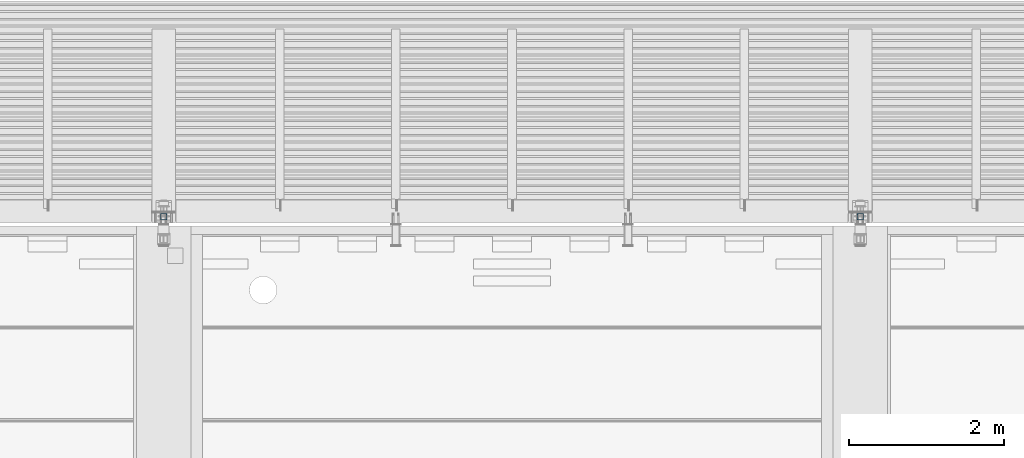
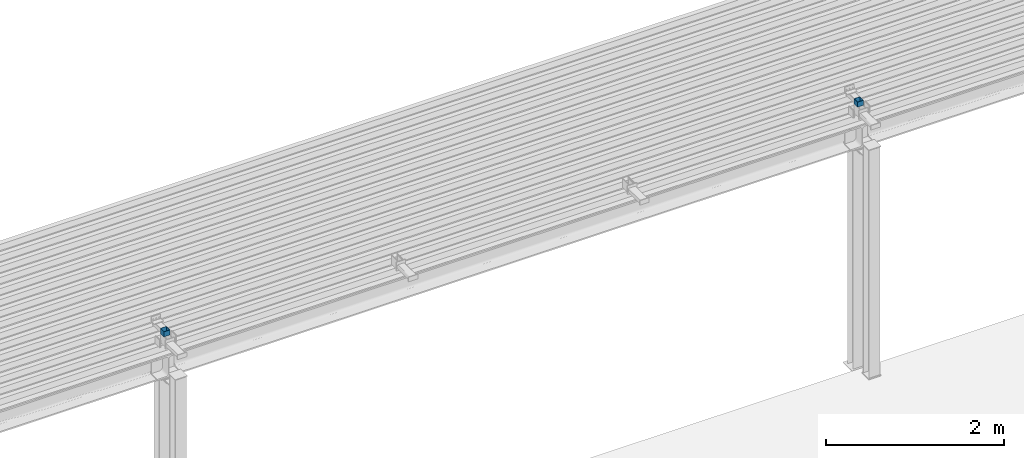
# One storey, part 4 of 34: 2 columns.
"""IFC2X3 building model written with IfcOpenShell, lengths in millimetres."""

from ifc_helpers import new_model, entity, si_unit, converted_unit, derived_unit, direction, frame, origin_with_axes, origin_2d_with_axis, place, context, subcontext, project, spatial, hollow_rectangle, extrude, material, type_object, element, save


model = new_model("IFC2X3")

# Units and contexts
model_context = context("Model", 3, precision=0.01, world=frame((0.0, 4.29681676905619e-09, 0.0)), true_north=direction((4.01073788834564e-13, 1.0)))
plan_context = context("Plan", 3, precision=0.01, world=frame((0.0, 4.29681676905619e-09, 0.0)), true_north=direction((4.01073788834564e-13, 1.0)))
body_context = subcontext(model_context, "Body", "Model", "MODEL_VIEW")
ifc_project = project(units=[converted_unit("PLANEANGLEUNIT", "DEGREE", entity("IfcPositiveLengthMeasure", 0.0174532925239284), si_unit("PLANEANGLEUNIT", "RADIAN"), dimensions=[0, 0, 0, 0, 0, 0, 0]), si_unit("AREAUNIT", "SQUARE_METRE"), si_unit("LENGTHUNIT", "METRE", prefix="MILLI"), si_unit("MASSUNIT", "GRAM", prefix="KILO"), si_unit("POWERUNIT", "WATT"), si_unit("PRESSUREUNIT", "PASCAL"), si_unit("FORCEUNIT", "NEWTON", prefix="KILO"), si_unit("ELECTRICVOLTAGEUNIT", "VOLT"), si_unit("ELECTRICCURRENTUNIT", "AMPERE"), si_unit("THERMODYNAMICTEMPERATUREUNIT", "DEGREE_CELSIUS"), si_unit("TIMEUNIT", "SECOND"), si_unit("VOLUMEUNIT", "CUBIC_METRE"), derived_unit("LINEARVELOCITYUNIT", [(si_unit("LENGTHUNIT", "METRE"), 1), (si_unit("TIMEUNIT", "SECOND"), -1)]), derived_unit("VOLUMETRICFLOWRATEUNIT", [(si_unit("VOLUMEUNIT", "CUBIC_METRE"), 1), (si_unit("TIMEUNIT", "SECOND"), -1)]), derived_unit("THERMALTRANSMITTANCEUNIT", [(si_unit("POWERUNIT", "WATT"), 1), (si_unit("THERMODYNAMICTEMPERATUREUNIT", "KELVIN"), -1), (si_unit("AREAUNIT", "SQUARE_METRE"), -1)]), derived_unit("SOUNDPRESSUREUNIT", [(si_unit("PRESSUREUNIT", "PASCAL"), 1)])], contexts=[model_context, plan_context])

# Site, building, storey
site_placement = place(None, frame((0.0, -4.29681676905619e-09, 0.0), z_axis=(0.0, 0.0, 1.0), x_axis=(1.0, 0.0, 0.0)))
site = spatial("IfcSite", under=ifc_project, at=site_placement, Name="Gardermoen", CompositionType="ELEMENT")
building_placement = place(site_placement, frame((0.0, 4.29681676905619e-09, 0.0), z_axis=(0.0, 0.0, 1.0), x_axis=(1.0, 0.0, 0.0)))
building = spatial("IfcBuilding", under=site, at=building_placement, Name="TH", CompositionType="ELEMENT")
storey_placement = place(building_placement, origin_with_axes())
storey = spatial("IfcBuildingStorey", under=building, at=storey_placement, Name="F", CompositionType="ELEMENT", Elevation=0.0)

# Columns
ifc_material = material(Name="STEEL/AISI304")
column_type = type_object("IfcColumnType", Name="RHS80*3", PredefinedType="NOTDEFINED")
for number, where, z_axis, x_axis in (
    (1, (907000.000000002, 484930.000000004, 213659.998875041), (0.0, 0.0, 1.0), (1.0, 0.0, 0.0)),
    (2, (898000.000000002, 484930.000000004, 213659.998875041), (0.0, 0.0, 1.0), (1.0, 0.0, 0.0)),
):
    element("IfcColumn", number, at=place(storey_placement, frame(where, z_axis=z_axis, x_axis=x_axis)), inside=storey, type_object=column_type, material=ifc_material, Name="STÅLSPESIAL", ObjectType="RHS80*3", context=body_context, shape_type="SweptSolid", body=[
        extrude(hollow_rectangle(XDim=80.0, YDim=80.0, WallThickness=3.0, InnerFilletRadius=3.0, OuterFilletRadius=6.0, at=origin_2d_with_axis()), frame((0.0, 0.0, 69.9999999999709), z_axis=(-3.99999553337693e-08, 0.0, -0.999999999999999), x_axis=(0.0, 1.0, 0.0)), (0.0, 0.0, 1.0), 70.0),
    ])

save(model, "model.ifc")
